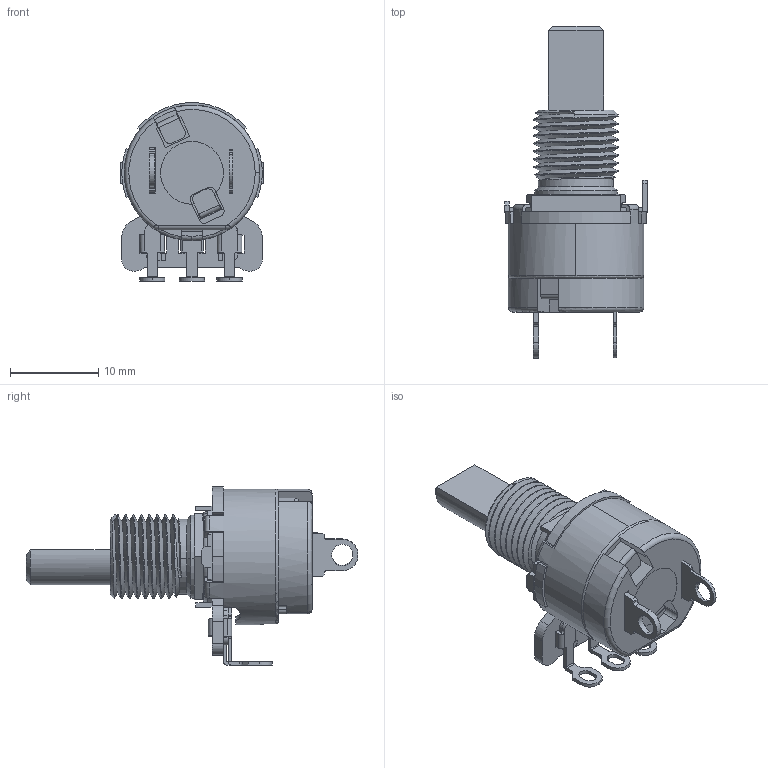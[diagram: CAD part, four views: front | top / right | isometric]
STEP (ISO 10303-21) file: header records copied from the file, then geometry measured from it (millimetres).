
FILE_DESCRIPTION (( 'STEP AP214' ), '1' );
FILE_NAME ('270T324D103A1B1.STEP', '2019-05-24T07:49:22', ( '' ), ( '' ), 'SwSTEP 2.0', 'SolidWorks 2019', '' );
FILE_SCHEMA (( 'AUTOMOTIVE_DESIGN' ));
Length unit declared in the file: millimetre
Products named in the file (13): 270S-EF-11518-24; 057-18-46-18-12; 270E-E-2254; 270-18-016-01-37(for 270-95-018); 270T324D103A1B1; 057-01-T11-34-01; 270-95-018-00-00(for Base 121); 270-01-121-30-01G; 270-40-057-02-53; 057-18-060-18-12; 270 element; 270-07-014-01-53; 270-13-122-06-12 (for 270-95-018)
Assembly tree (12 placements, depth 3):
  270T324D103A1B1
    270-40-057-02-53
    057-01-T11-34-01
    057-18-060-18-12
    057-18-46-18-12
    270-95-018-00-00(for Base 121)
      270-01-121-30-01G
      270 element
      270-13-122-06-12 (for 270-95-018)
      270-18-016-01-37(for 270-95-018)
    270-07-014-01-53
    270E-E-2254
    270S-EF-11518-24
Bounding box: 16.16 x 37.59 x 20.19 mm (x, y, z)
Volume: 2124.7 mm3; surface area: 4679 mm2
Topology: 12 solids, 12 shells, 899 faces, 2495 edges, 1618 vertices
Faces by surface type: plane 520, cylinder 302, cone 42, torus 25, bspline 8, sphere 2
Entity records: 30485 total; most frequent: CARTESIAN_POINT 6619, ORIENTED_EDGE 4982, DIRECTION 4851, EDGE_CURVE 2491, AXIS2_PLACEMENT_3D 1632, VERTEX_POINT 1616, LINE 1587, VECTOR 1587
